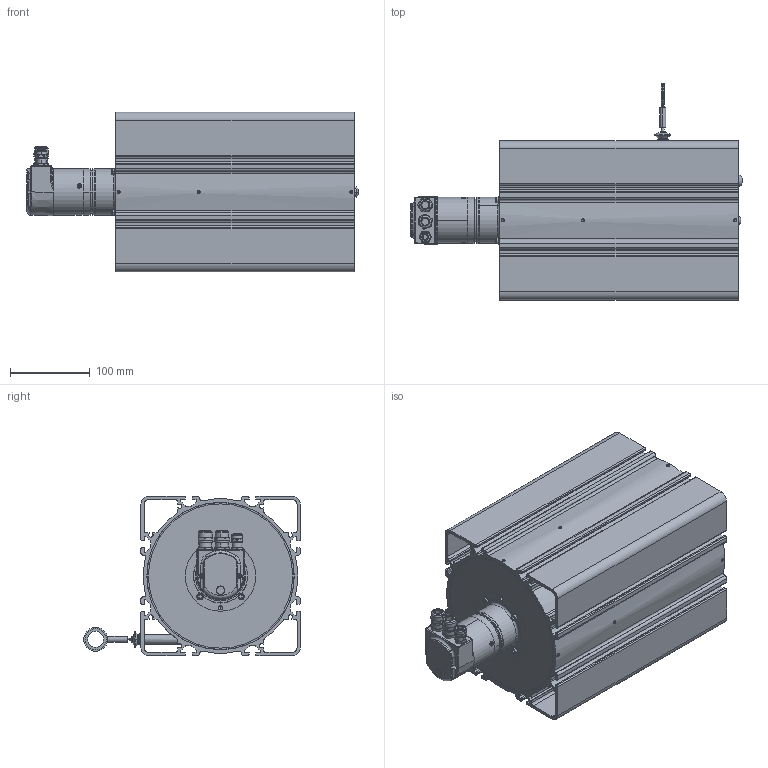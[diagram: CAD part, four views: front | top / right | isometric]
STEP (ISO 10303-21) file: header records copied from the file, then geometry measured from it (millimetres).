
FILE_DESCRIPTION((''),'2;1');
FILE_NAME('WDS-40000-P200-BH-PB_02_ASM','2024-05-28T13:21:23',('15000597'),(''),'CREO PARAMETRIC BY PTC INC, 2022164','CREO PARAMETRIC BY PTC INC, 2022164','');
FILE_SCHEMA(('AUTOMOTIVE_DESIGN { 1 0 10303 214 1 1 1 1 }'));
Products named in the file (34): TELESO_SENZORU_40M_P200_AF0; HRIDEL_MOTORU_30-40M_P200_AF0; BOCNICE_VNEJSI_P200_AF0; LOZISKO_6000_10X26X8_AF1; PREDNI_STENA_P200_DIRA_S_POJIST_AF0; SROUB_ISO7380_COC_HEX_C_M5X10_AF0; TRUBKA_PRUCHODKY_P200_AF0; PRUCHODKA_P200; GUMOVY_VLNOVEC; STIRATKO_LANKO_FORMA_0I8; DUTY_NYT_A_3X10; GP_7I5X2I0X25_EXT_EPDM60; LANKO_7X7_0I63_0I8_AF0; OKO_LANKA_TRE; CU_HULSE_2X1I4X5_AF0; SPOJKA_GS5_PR6_2I1_AF0; KOLIK_PRUZNY_2X8_AF0; SROUB_ISO4026_STAV_HEX_M4X4; PRIRUBA_SYNCHRO_P96_P200_AF0; PODLOZKA_M4_VEJIROVA_AF1; PODLOZKA_M4_VEJIROVA_AF3; PODLOZKA_M4_VEJIROVA_AF4; PODLOZKA_M4_VEJIROVA_AF5; PODLOZKA_M4_VEJIROVA_AF6; SROUB_ISO4762_VALC_HEX_M4X6_AF0; SROUB_ISO4762_VALC_HEX_M4X6_AF1; SROUB_ISO4762_VALC_HEX_M4X6_AF2; SROUB_ISO4762_VALC_HEX_M4X6_AF3; SPOJKA_KRIZ_AF0; SPOJKA_GS5_PR6_AF0; SROUB_ISO4029_STAV_HEX_M3X3_AF0; SROUB_ISO7380_COC_HEX_M8X8_AF0; BAU_SYNCHRO_PB_EN580CIMLSU06GH2; WDS-40000-P200-BH-PB_02_ASM
Assembly tree (44 placements, depth 2):
  WDS-40000-P200-BH-PB_02_ASM
    TELESO_SENZORU_40M_P200_AF0
    HRIDEL_MOTORU_30-40M_P200_AF0
    BOCNICE_VNEJSI_P200_AF0
    LOZISKO_6000_10X26X8_AF1
    PREDNI_STENA_P200_DIRA_S_POJIST_AF0
    SROUB_ISO7380_COC_HEX_C_M5X10_AF0
    TRUBKA_PRUCHODKY_P200_AF0
    PRUCHODKA_P200
    GUMOVY_VLNOVEC
    STIRATKO_LANKO_FORMA_0I8
    DUTY_NYT_A_3X10
    GP_7I5X2I0X25_EXT_EPDM60
    LANKO_7X7_0I63_0I8_AF0
    OKO_LANKA_TRE
    CU_HULSE_2X1I4X5_AF0
    SPOJKA_GS5_PR6_2I1_AF0
    KOLIK_PRUZNY_2X8_AF0
    SROUB_ISO4026_STAV_HEX_M4X4  x12
    PRIRUBA_SYNCHRO_P96_P200_AF0
    PODLOZKA_M4_VEJIROVA_AF1
    PODLOZKA_M4_VEJIROVA_AF3
    PODLOZKA_M4_VEJIROVA_AF4
    PODLOZKA_M4_VEJIROVA_AF5
    PODLOZKA_M4_VEJIROVA_AF6
    SROUB_ISO4762_VALC_HEX_M4X6_AF0
    SROUB_ISO4762_VALC_HEX_M4X6_AF1
    SROUB_ISO4762_VALC_HEX_M4X6_AF2
    SROUB_ISO4762_VALC_HEX_M4X6_AF3
    SPOJKA_KRIZ_AF0
    SPOJKA_GS5_PR6_AF0
    SROUB_ISO4029_STAV_HEX_M3X3_AF0
    SROUB_ISO7380_COC_HEX_M8X8_AF0
    BAU_SYNCHRO_PB_EN580CIMLSU06GH2
Bounding box: 416.8 x 271.7 x 200 mm (x, y, z)
Volume: 1696486.1 mm3; surface area: 910717.3 mm2
Topology: 35 solids, 73 shells, 1724 faces, 4471 edges, 2865 vertices
Faces by surface type: plane 704, cylinder 593, cone 246, torus 140, revolution 20, bspline 17, sphere 4
Entity records: 72056 total; most frequent: CARTESIAN_POINT 18905, DIRECTION 8184, ORIENTED_EDGE 7910, PRESENTATION_STYLE_ASSIGNMENT 4149, STYLED_ITEM 4149, EDGE_CURVE 4029, CURVE_STYLE 4023, AXIS2_PLACEMENT_3D 3300
